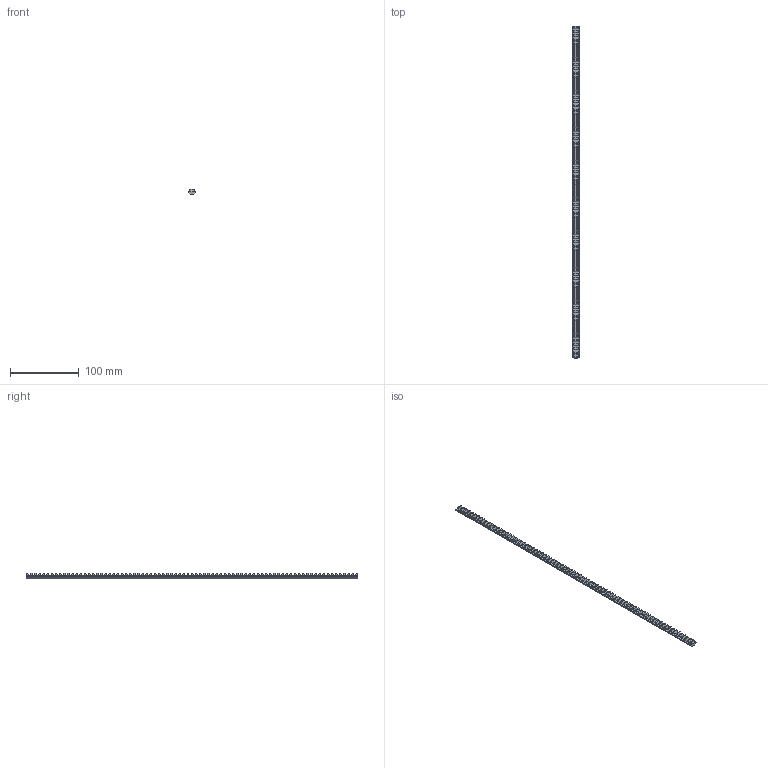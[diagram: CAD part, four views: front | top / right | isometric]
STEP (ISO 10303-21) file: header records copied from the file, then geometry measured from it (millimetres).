
FILE_DESCRIPTION(/* description */ ('STEP AP242 Edition 2','CAx-IF Rec.Pracs.---Representation and Presentation of Product Manufacturing Information (PMI)---4.0---2014-10-13','CAx-IF Rec.Pracs.---3D Tessellated Geometry---0.4---2014-09-14','2;1','CAx-IF Rec.Pracs.---User Defined Attributes---1.5---2016-08-15'),/* implementation_level */ '2;1');
FILE_NAME(/* name */ 'Gear Rack X-Axis',/* time_stamp */ '2025-11-29T19:54:07Z',/* author */ (''),/* organization */ (''),/* preprocessor_version */ 'ST-DEVELOPER v20',/* originating_system */ 'ONSHAPE BY PTC INC, 1.207',/* authorisation */ ' ');
FILE_SCHEMA (('AP242_MANAGED_MODEL_BASED_3D_ENGINEERING_MIM_LF { 1 0 10303 442 3 1 4 }'));
Length unit declared in the file: metre
Products named in the file (1): Gear Rack
Bounding box: 11 x 483.67 x 7.72 mm (x, y, z)
Volume: 23971 mm3; surface area: 17516.9 mm2
Topology: 1 solids, 1 shells, 415 faces, 998 edges, 664 vertices
Faces by surface type: plane 413, cylinder 2
Entity records: 11826 total; most frequent: CARTESIAN_POINT 2078, ORIENTED_EDGE 1996, DIRECTION 1834, EDGE_CURVE 998, LINE 994, VECTOR 994, VERTEX_POINT 664, EDGE_LOOP 494
